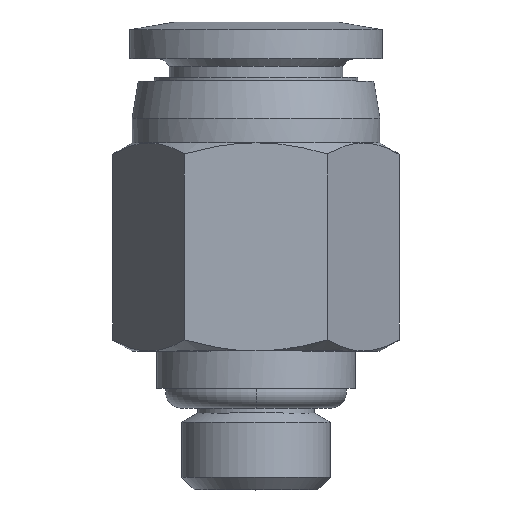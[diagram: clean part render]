
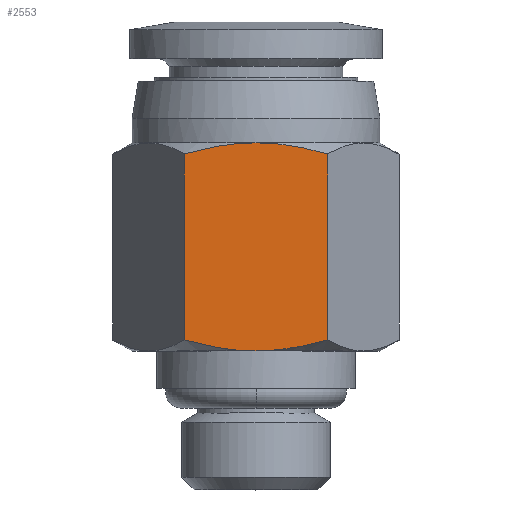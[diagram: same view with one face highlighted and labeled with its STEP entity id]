
A CAD part, top view. The second image highlights one B-rep face of the part: STEP entity #2553.
In plain terms, the highlighted planar face has unit normal (0, 0, 1).
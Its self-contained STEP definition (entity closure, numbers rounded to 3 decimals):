
#20 = B_SPLINE_CURVE_WITH_KNOTS ( 'NONE', 3,
 ( #1920, #1675, #2677, #885, #1303, #1417 ),
 .UNSPECIFIED., .F., .F.,
 ( 4, 2, 4 ),
 ( 0., 0.5, 1. ),
 .UNSPECIFIED. ) ;
#145 = CARTESIAN_POINT ( 'NONE',  ( -1.697, 13.839, 5. ) ) ;
#194 = EDGE_CURVE ( 'NONE', #445, #1644, #1641, .T. ) ;
#248 = CARTESIAN_POINT ( 'NONE',  ( -2.887, 8.549, 5. ) ) ;
#354 = CARTESIAN_POINT ( 'NONE',  ( -2.887, 13.553, 5. ) ) ;
#404 = CARTESIAN_POINT ( 'NONE',  ( -1.513, 13.871, 5. ) ) ;
#409 = EDGE_CURVE ( 'NONE', #881, #2922, #552, .T. ) ;
#445 = VERTEX_POINT ( 'NONE', #1438 ) ;
#479 = EDGE_LOOP ( 'NONE', ( #1411, #3073, #2515, #3220, #2647, #3196 ) ) ;
#552 = B_SPLINE_CURVE_WITH_KNOTS ( 'NONE', 3,
 ( #3236, #2948, #2232, #3251, #626, #2433 ),
 .UNSPECIFIED., .F., .F.,
 ( 4, 2, 4 ),
 ( 0., 0.5, 1. ),
 .UNSPECIFIED. ) ;
#601 = CARTESIAN_POINT ( 'NONE',  ( 2.887, 13.553, 5. ) ) ;
#604 = CARTESIAN_POINT ( 'NONE',  ( -2.887, 13.553, 5. ) ) ;
#626 = CARTESIAN_POINT ( 'NONE',  ( -0.455, 5.6, 5. ) ) ;
#809 = CARTESIAN_POINT ( 'NONE',  ( 0., 5.6, 5. ) ) ;
#881 = VERTEX_POINT ( 'NONE', #1552 ) ;
#885 = CARTESIAN_POINT ( 'NONE',  ( 1.863, 5.783, 5. ) ) ;
#938 = CARTESIAN_POINT ( 'NONE',  ( 2.887, 11.051, 5. ) ) ;
#980 = CARTESIAN_POINT ( 'NONE',  ( 0.462, 13.991, 5. ) ) ;
#1007 = EDGE_CURVE ( 'NONE', #1301, #445, #1198, .T. ) ;
#1033 = CARTESIAN_POINT ( 'NONE',  ( -2.887, 13.553, 5. ) ) ;
#1116 = CARTESIAN_POINT ( 'NONE',  ( -2.377, 13.693, 5. ) ) ;
#1175 = EDGE_CURVE ( 'NONE', #1301, #881, #2580, .T. ) ;
#1198 = B_SPLINE_CURVE_WITH_KNOTS ( 'NONE', 3,
 ( #354, #1703, #1116, #3218, #1913, #145, #2936, #404, #2702, #1425, #2467, #1945 ),
 .UNSPECIFIED., .F., .F.,
 ( 4, 2, 2, 2, 2, 4 ),
 ( 0., 0.25, 0.375, 0.438, 0.5, 1. ),
 .UNSPECIFIED. ) ;
#1247 = CARTESIAN_POINT ( 'NONE',  ( 2.887, 13.553, 5. ) ) ;
#1286 = CARTESIAN_POINT ( 'NONE',  ( -2.887, 6.047, 5. ) ) ;
#1301 = VERTEX_POINT ( 'NONE', #604 ) ;
#1303 = CARTESIAN_POINT ( 'NONE',  ( 2.361, 5.895, 5. ) ) ;
#1325 = EDGE_CURVE ( 'NONE', #2922, #2219, #20, .T. ) ;
#1411 = ORIENTED_EDGE ( 'NONE', *, *, #1175, .T. ) ;
#1417 = CARTESIAN_POINT ( 'NONE',  ( 2.887, 6.047, 5. ) ) ;
#1425 = CARTESIAN_POINT ( 'NONE',  ( -0.918, 13.963, 5. ) ) ;
#1438 = CARTESIAN_POINT ( 'NONE',  ( 0., 14., 5. ) ) ;
#1475 = CARTESIAN_POINT ( 'NONE',  ( 0.808, 13.963, 5. ) ) ;
#1552 = CARTESIAN_POINT ( 'NONE',  ( -2.887, 6.047, 5. ) ) ;
#1559 = CARTESIAN_POINT ( 'NONE',  ( 2.887, 6.047, 5. ) ) ;
#1566 = CARTESIAN_POINT ( 'NONE',  ( -2.887, 11.051, 5. ) ) ;
#1641 = B_SPLINE_CURVE_WITH_KNOTS ( 'NONE', 3,
 ( #2281, #2584, #980, #1475, #2301, #2321, #3306, #2782, #2069, #3362, #2029, #2049 ),
 .UNSPECIFIED., .F., .F.,
 ( 4, 2, 2, 2, 2, 4 ),
 ( 0., 0.25, 0.375, 0.437, 0.5, 1. ),
 .UNSPECIFIED. ) ;
#1644 = VERTEX_POINT ( 'NONE', #601 ) ;
#1675 = CARTESIAN_POINT ( 'NONE',  ( 0.455, 5.6, 5. ) ) ;
#1703 = CARTESIAN_POINT ( 'NONE',  ( -2.629, 13.628, 5. ) ) ;
#1873 = PLANE ( 'NONE',  #2115 ) ;
#1913 = CARTESIAN_POINT ( 'NONE',  ( -1.881, 13.803, 5. ) ) ;
#1920 = CARTESIAN_POINT ( 'NONE',  ( 0., 5.6, 5. ) ) ;
#1940 = B_SPLINE_CURVE_WITH_KNOTS ( 'NONE', 3,
 ( #1247, #938, #2792, #2294 ),
 .UNSPECIFIED., .F., .F.,
 ( 4, 4 ),
 ( 0., 1. ),
 .UNSPECIFIED. ) ;
#1945 = CARTESIAN_POINT ( 'NONE',  ( 0., 14., 5. ) ) ;
#2029 = CARTESIAN_POINT ( 'NONE',  ( 2.371, 13.702, 5. ) ) ;
#2049 = CARTESIAN_POINT ( 'NONE',  ( 2.887, 13.553, 5. ) ) ;
#2069 = CARTESIAN_POINT ( 'NONE',  ( 1.329, 13.9, 5. ) ) ;
#2082 = FACE_OUTER_BOUND ( 'NONE', #479, .T. ) ;
#2115 = AXIS2_PLACEMENT_3D ( 'NONE', #809, #2117, #2884 ) ;
#2117 = DIRECTION ( 'NONE',  ( 0., 0., 1. ) ) ;
#2128 = EDGE_CURVE ( 'NONE', #1644, #2219, #1940, .T. ) ;
#2219 = VERTEX_POINT ( 'NONE', #1559 ) ;
#2232 = CARTESIAN_POINT ( 'NONE',  ( -1.863, 5.783, 5. ) ) ;
#2281 = CARTESIAN_POINT ( 'NONE',  ( 0., 14., 5. ) ) ;
#2294 = CARTESIAN_POINT ( 'NONE',  ( 2.887, 6.047, 5. ) ) ;
#2301 = CARTESIAN_POINT ( 'NONE',  ( 0.923, 13.952, 5. ) ) ;
#2321 = CARTESIAN_POINT ( 'NONE',  ( 1.098, 13.932, 5. ) ) ;
#2433 = CARTESIAN_POINT ( 'NONE',  ( 0., 5.6, 5. ) ) ;
#2467 = CARTESIAN_POINT ( 'NONE',  ( -0.466, 14., 5. ) ) ;
#2515 = ORIENTED_EDGE ( 'NONE', *, *, #1325, .T. ) ;
#2553 = ADVANCED_FACE ( 'NONE', ( #2082 ), #1873, .T. ) ;
#2580 = B_SPLINE_CURVE_WITH_KNOTS ( 'NONE', 3,
 ( #1033, #1566, #248, #1286 ),
 .UNSPECIFIED., .F., .F.,
 ( 4, 4 ),
 ( 0., 1. ),
 .UNSPECIFIED. ) ;
#2584 = CARTESIAN_POINT ( 'NONE',  ( 0.233, 14., 5. ) ) ;
#2647 = ORIENTED_EDGE ( 'NONE', *, *, #194, .F. ) ;
#2677 = CARTESIAN_POINT ( 'NONE',  ( 0.919, 5.637, 5. ) ) ;
#2702 = CARTESIAN_POINT ( 'NONE',  ( -1.45, 13.881, 5. ) ) ;
#2708 = CARTESIAN_POINT ( 'NONE',  ( 0., 5.6, 5. ) ) ;
#2782 = CARTESIAN_POINT ( 'NONE',  ( 1.273, 13.908, 5. ) ) ;
#2792 = CARTESIAN_POINT ( 'NONE',  ( 2.887, 8.549, 5. ) ) ;
#2884 = DIRECTION ( 'NONE',  ( 1., 0., 0. ) ) ;
#2922 = VERTEX_POINT ( 'NONE', #2708 ) ;
#2936 = CARTESIAN_POINT ( 'NONE',  ( -1.635, 13.85, 5. ) ) ;
#2948 = CARTESIAN_POINT ( 'NONE',  ( -2.362, 5.895, 5. ) ) ;
#3073 = ORIENTED_EDGE ( 'NONE', *, *, #409, .T. ) ;
#3196 = ORIENTED_EDGE ( 'NONE', *, *, #1007, .F. ) ;
#3218 = CARTESIAN_POINT ( 'NONE',  ( -2.004, 13.778, 5. ) ) ;
#3220 = ORIENTED_EDGE ( 'NONE', *, *, #2128, .F. ) ;
#3236 = CARTESIAN_POINT ( 'NONE',  ( -2.887, 6.047, 5. ) ) ;
#3251 = CARTESIAN_POINT ( 'NONE',  ( -0.919, 5.637, 5. ) ) ;
#3306 = CARTESIAN_POINT ( 'NONE',  ( 1.156, 13.924, 5. ) ) ;
#3362 = CARTESIAN_POINT ( 'NONE',  ( 1.88, 13.815, 5. ) ) ;
